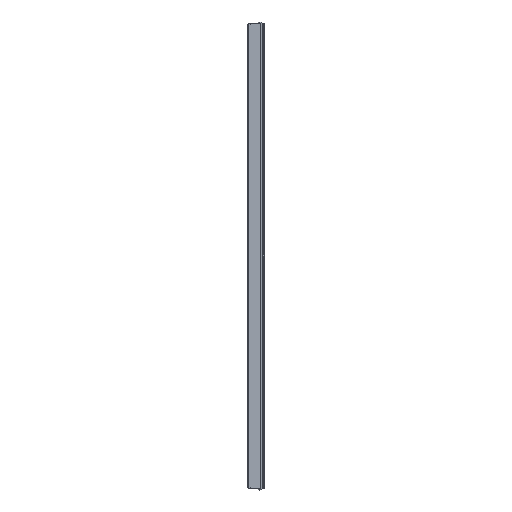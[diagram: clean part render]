
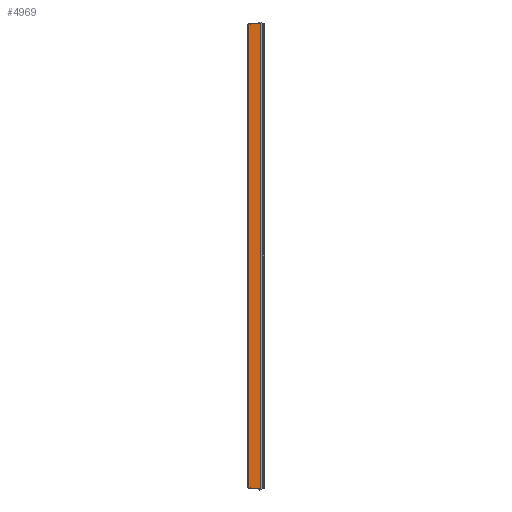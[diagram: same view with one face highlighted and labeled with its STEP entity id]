
A CAD part, left-side view. The second image highlights one B-rep face of the part: STEP entity #4969.
In plain terms, the highlighted planar face has unit normal (-1, 0, 0).
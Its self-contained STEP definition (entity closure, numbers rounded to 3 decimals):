
#1382=DIRECTION('',(0.,0.,1.));
#1383=VECTOR('',#1382,776.);
#1384=CARTESIAN_POINT('',(-19.,-4.3,-388.));
#1385=LINE('',#1384,#1383);
#1402=DIRECTION('',(0.,-1.,0.));
#1403=VECTOR('',#1402,3.3);
#1404=CARTESIAN_POINT('',(-19.,16.5,387.));
#1405=LINE('',#1404,#1403);
#1406=DIRECTION('',(0.,-1.,0.));
#1407=VECTOR('',#1406,17.5);
#1408=CARTESIAN_POINT('',(-19.,13.2,388.));
#1409=LINE('',#1408,#1407);
#1410=DIRECTION('',(0.,1.,0.));
#1411=VECTOR('',#1410,17.5);
#1412=CARTESIAN_POINT('',(-19.,-4.3,-388.));
#1413=LINE('',#1412,#1411);
#1414=DIRECTION('',(0.,0.,1.));
#1415=VECTOR('',#1414,1.);
#1416=CARTESIAN_POINT('',(-19.,13.2,-388.));
#1417=LINE('',#1416,#1415);
#1418=DIRECTION('',(0.,0.,1.));
#1419=VECTOR('',#1418,774.);
#1420=CARTESIAN_POINT('',(-19.,16.5,-387.));
#1421=LINE('',#1420,#1419);
#1430=DIRECTION('',(0.,0.,-1.));
#1431=VECTOR('',#1430,1.);
#1432=CARTESIAN_POINT('',(-19.,13.2,388.));
#1433=LINE('',#1432,#1431);
#1514=DIRECTION('',(0.,-1.,0.));
#1515=VECTOR('',#1514,3.3);
#1516=CARTESIAN_POINT('',(-19.,16.5,-387.));
#1517=LINE('',#1516,#1515);
#2485=CARTESIAN_POINT('',(-19.,13.2,387.));
#2486=VERTEX_POINT('',#2485);
#2487=CARTESIAN_POINT('',(-19.,16.5,387.));
#2488=VERTEX_POINT('',#2487);
#2537=CARTESIAN_POINT('',(-19.,13.2,388.));
#2538=VERTEX_POINT('',#2537);
#3057=CARTESIAN_POINT('',(-19.,-4.3,-388.));
#3058=CARTESIAN_POINT('',(-19.,-4.3,388.));
#3059=VERTEX_POINT('',#3057);
#3060=VERTEX_POINT('',#3058);
#3065=CARTESIAN_POINT('',(-19.,13.2,-388.));
#3066=VERTEX_POINT('',#3065);
#3067=CARTESIAN_POINT('',(-19.,13.2,-387.));
#3068=VERTEX_POINT('',#3067);
#3069=CARTESIAN_POINT('',(-19.,16.5,-387.));
#3070=VERTEX_POINT('',#3069);
#4948=CARTESIAN_POINT('',(-19.,16.5,-387.));
#4949=DIRECTION('',(-1.,0.,0.));
#4950=DIRECTION('',(0.,-1.,0.));
#4951=AXIS2_PLACEMENT_3D('',#4948,#4949,#4950);
#4952=PLANE('',#4951);
#4954=ORIENTED_EDGE('',*,*,#4953,.T.);
#4956=ORIENTED_EDGE('',*,*,#4955,.F.);
#4958=ORIENTED_EDGE('',*,*,#4957,.T.);
#4959=ORIENTED_EDGE('',*,*,#4936,.F.);
#4960=ORIENTED_EDGE('',*,*,#4926,.T.);
#4962=ORIENTED_EDGE('',*,*,#4961,.T.);
#4964=ORIENTED_EDGE('',*,*,#4963,.F.);
#4966=ORIENTED_EDGE('',*,*,#4965,.T.);
#4967=EDGE_LOOP('',(#4954,#4956,#4958,#4959,#4960,#4962,#4964,#4966));
#4968=FACE_OUTER_BOUND('',#4967,.F.);
#4926=EDGE_CURVE('',#3059,#3066,#1413,.T.);
#4936=EDGE_CURVE('',#3059,#3060,#1385,.T.);
#4953=EDGE_CURVE('',#2488,#2486,#1405,.T.);
#4955=EDGE_CURVE('',#2538,#2486,#1433,.T.);
#4957=EDGE_CURVE('',#2538,#3060,#1409,.T.);
#4961=EDGE_CURVE('',#3066,#3068,#1417,.T.);
#4963=EDGE_CURVE('',#3070,#3068,#1517,.T.);
#4965=EDGE_CURVE('',#3070,#2488,#1421,.T.);
#4969=ADVANCED_FACE('',(#4968),#4952,.T.);
